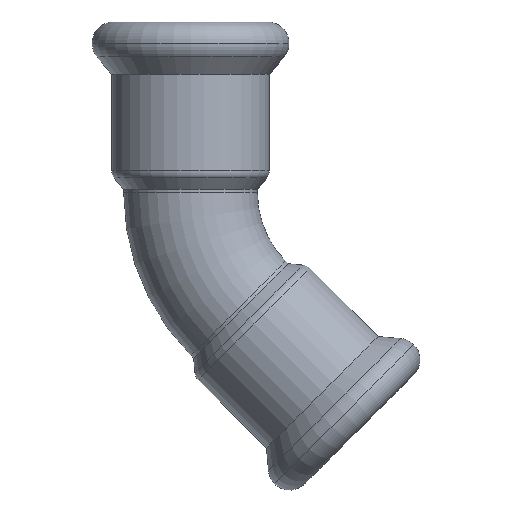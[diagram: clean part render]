
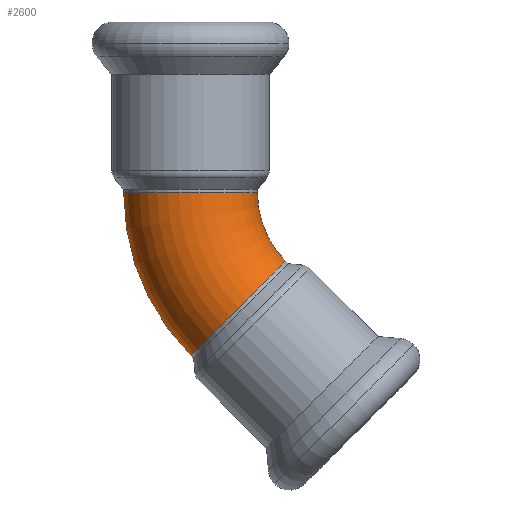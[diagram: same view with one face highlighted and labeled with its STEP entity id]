
A CAD part, top view. The second image highlights one B-rep face of the part: STEP entity #2600.
In plain terms, the highlighted toroidal (fillet/blend) face has major radius 22 mm and minor radius 9 mm.
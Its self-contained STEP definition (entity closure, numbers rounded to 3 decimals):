
#2130=CARTESIAN_POINT('',(-180.976,42.134,0.));
#2140=DIRECTION('',(0.,0.,1.));
#2150=DIRECTION('',(-1.,0.,0.));
#2160=AXIS2_PLACEMENT_3D('',#2130,#2140,#2150);
#2170=TOROIDAL_SURFACE('',#2160,22.,9.);
#2180=CARTESIAN_POINT('',(-196.533,26.577,0.));
#2190=DIRECTION('',(0.707,-0.707,0.));
#2200=DIRECTION('',(-0.707,-0.707,0.));
#2210=AXIS2_PLACEMENT_3D('',#2180,#2190,#2200);
#2220=CIRCLE('',#2210,9.);
#2230=CARTESIAN_POINT('',(-196.533,26.577,9.));
#2240=VERTEX_POINT('',#2230);
#2250=CARTESIAN_POINT('',(-202.897,20.213,
0.));
#2260=VERTEX_POINT('',#2250);
#2270=EDGE_CURVE('',#2240,#2260,#2220,.T.);
#2280=ORIENTED_EDGE('',*,*,#2270,.F.);
#2290=CARTESIAN_POINT('',(-180.976,42.134,
0.));
#2300=DIRECTION('',(0.,0.,1.));
#2310=DIRECTION('',(-1.,0.,0.));
#2320=AXIS2_PLACEMENT_3D('',#2290,#2300,#2310);
#2330=CIRCLE('',#2320,31.);
#2340=CARTESIAN_POINT('',(-211.976,42.134,
0.));
#2350=VERTEX_POINT('',#2340);
#2360=EDGE_CURVE('',#2350,#2260,#2330,.T.);
#2370=ORIENTED_EDGE('',*,*,#2360,.T.);
#2380=CARTESIAN_POINT('',(-202.976,42.134,0.));
#2390=DIRECTION('',(0.,-1.,0.));
#2400=DIRECTION('',(-1.,0.,0.));
#2410=AXIS2_PLACEMENT_3D('',#2380,#2390,#2400);
#2420=CIRCLE('',#2410,9.);
#2430=CARTESIAN_POINT('',(-193.976,42.134,
0.));
#2440=VERTEX_POINT('',#2430);
#2450=EDGE_CURVE('',#2440,#2350,#2420,.T.);
#2460=ORIENTED_EDGE('',*,*,#2450,.T.);
#2470=CARTESIAN_POINT('',(-180.976,42.134,
0.));
#2480=DIRECTION('',(0.,0.,1.));
#2490=DIRECTION('',(-1.,0.,0.));
#2500=AXIS2_PLACEMENT_3D('',#2470,#2480,#2490);
#2510=CIRCLE('',#2500,13.);
#2520=CARTESIAN_POINT('',(-190.169,32.941,
0.));
#2530=VERTEX_POINT('',#2520);
#2540=EDGE_CURVE('',#2440,#2530,#2510,.T.);
#2550=ORIENTED_EDGE('',*,*,#2540,.F.);
#2560=EDGE_CURVE('',#2530,#2240,#2220,.T.);
#2570=ORIENTED_EDGE('',*,*,#2560,.F.);
#2580=EDGE_LOOP('',(#2570,#2550,#2460,#2370,#2280));
#2590=FACE_OUTER_BOUND('',#2580,.T.);
#2600=ADVANCED_FACE('',(#2590),#2170,.T.);
